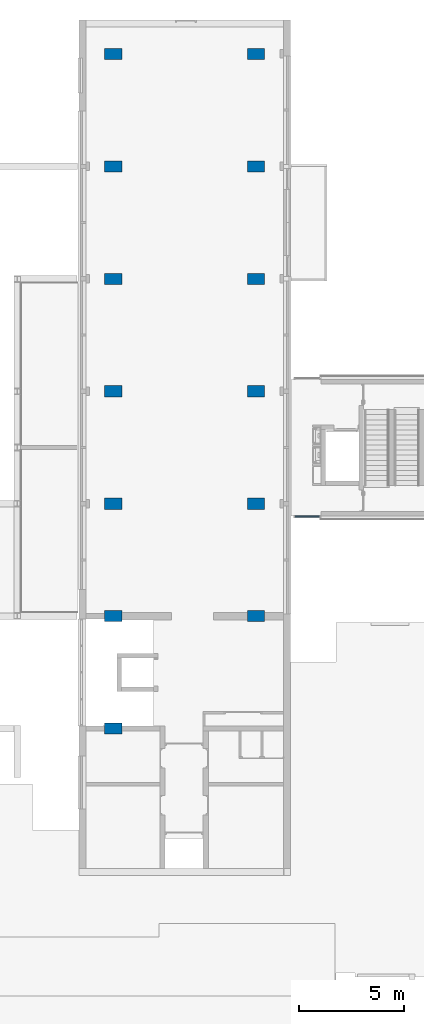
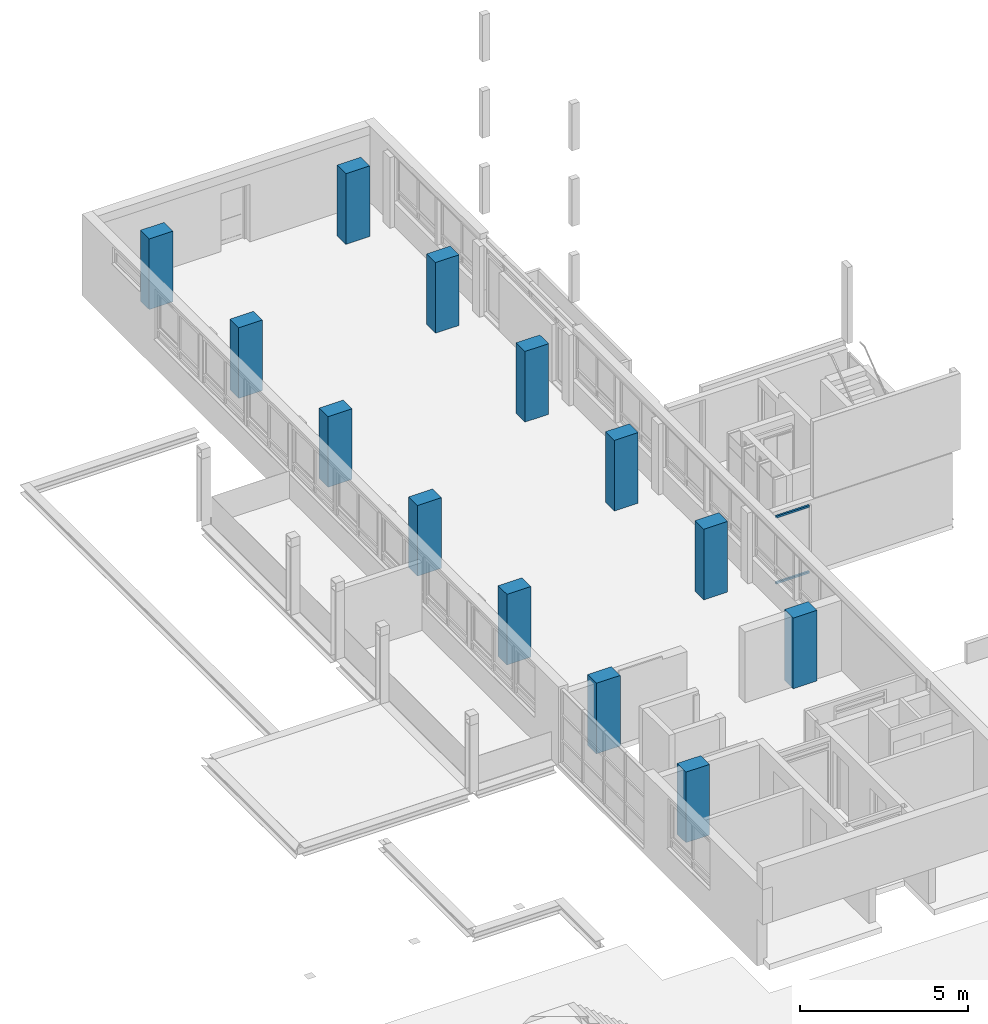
# One storey, part 1 of 22: 13 columns, 2 members, 1 element without a shape of its own.
"""IFC2X3 building model written with IfcOpenShell, lengths in millimetres."""

from ifc_helpers import new_model, entity, si_unit, converted_unit, derived_unit, money_unit, direction, frame, origin_with_axes, place, context, subcontext, project, spatial, faceted_brep, source, transform, mapped, material, type_object, type_shapes, element, aggregate, save


model = new_model("IFC2X3")

# Units and contexts
model_context = context("Model", 3, precision=0.01, world=origin_with_axes(), true_north=direction((0.0, 1.0)))
body_context = subcontext(model_context, "Body", "Model", "MODEL_VIEW")
ifc_project = project(units=[si_unit("LENGTHUNIT", "METRE", prefix="MILLI"), si_unit("AREAUNIT", "SQUARE_METRE"), si_unit("VOLUMEUNIT", "CUBIC_METRE"), converted_unit("PLANEANGLEUNIT", "DEGREE", entity("IfcPlaneAngleMeasure", 0.0174532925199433), si_unit("PLANEANGLEUNIT", "RADIAN"), dimensions=[0, 0, 0, 0, 0, 0, 0]), money_unit("EUR"), converted_unit("TIMEUNIT", "Year", entity("IfcTimeMeasure", 31557600.0), si_unit("TIMEUNIT", "SECOND"), dimensions=[0, 0, 1, 0, 0, 0, 0]), si_unit("MASSUNIT", "GRAM", prefix="KILO"), si_unit("THERMODYNAMICTEMPERATUREUNIT", "DEGREE_CELSIUS"), si_unit("LUMINOUSINTENSITYUNIT", "LUMEN"), si_unit("ENERGYUNIT", "JOULE", prefix="MEGA"), derived_unit("THERMALCONDUCTANCEUNIT", [(si_unit("POWERUNIT", "WATT"), 1), (si_unit("LENGTHUNIT", "METRE"), -1), (si_unit("THERMODYNAMICTEMPERATUREUNIT", "KELVIN"), -1)]), derived_unit("SPECIFICHEATCAPACITYUNIT", [(si_unit("ENERGYUNIT", "JOULE"), 1), (si_unit("MASSUNIT", "GRAM", prefix="KILO"), -1), (si_unit("THERMODYNAMICTEMPERATUREUNIT", "KELVIN"), -1)]), derived_unit("MASSDENSITYUNIT", [(si_unit("MASSUNIT", "GRAM", prefix="KILO"), 1), (si_unit("VOLUMEUNIT", "CUBIC_METRE"), -1)])], contexts=[model_context])

# Site, building, storey
site_placement = place(None, origin_with_axes())
site = spatial("IfcSite", under=ifc_project, at=site_placement, Name="Site", CompositionType="ELEMENT")
building_placement = place(site_placement, origin_with_axes())
building = spatial("IfcBuilding", under=site, at=building_placement, Name="Naam gebouw", CompositionType="ELEMENT")
storey_placement = place(building_placement, frame((0.0, 0.0, 8690.0), z_axis=(0.0, 0.0, 1.0), x_axis=(1.0, 0.0, 0.0)))
storey = spatial("IfcBuildingStorey", under=building, at=storey_placement, Name="2e verdieping V", CompositionType="ELEMENT", Elevation=8690.0)

# Columns
ifc_material_1 = material(Name="ALG - CONSTRUCTIEF")
column_type = type_object("IfcColumnType", Name="ALG - CONSTRUCTIEF 525 x 820", PredefinedType="COLUMN")
column_1_placement = place(storey_placement, frame((28605.99999999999, 33285.91242510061, 0.0), z_axis=(0.0, 0.0, 1.0), x_axis=(0.0, -1.0, 0.0)))
element("IfcColumn", 1, at=column_1_placement, inside=storey, type_object=column_type, material=ifc_material_1, Name="_Kolom-x", ObjectType="COLUMN", context=body_context, shape_type="Brep", body=[
    faceted_brep([(-262.5000000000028, -410.0000000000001, 0.0), (-262.5000000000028, -410.0000000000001, 2570.000000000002), (-262.5000000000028, 410.0000000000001, 2570.000000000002), (-262.5000000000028, 410.0000000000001, 0.0), (262.5000000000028, -409.9999999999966, 0.0), (262.5000000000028, -409.9999999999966, 2570.000000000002), (262.5000000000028, 410.0000000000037, 2570.000000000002), (262.5000000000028, 410.0000000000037, 0.0)], [[[0, 1, 2, 3]], [[4, 5, 1, 0]], [[5, 6, 2, 1]], [[3, 2, 6, 7]], [[7, 4, 0, 3]], [[7, 6, 5, 4]]]),
])
for number, where, z_axis, x_axis, name in (
    (2, (28605.99999999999, 43945.9124251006, 0.0), (0.0, 0.0, 1.0), (0.0, -1.0, 0.0), "_Kolom-x"),
    (3, (28605.99999999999, 54605.9124251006, 0.0), (0.0, 0.0, 1.0), (0.0, -1.0, 0.0), "_Kolom-x"),
):
    element("IfcColumn", number, at=place(storey_placement, frame(where, z_axis=z_axis, x_axis=x_axis)), inside=storey, type_object=column_type, material=ifc_material_1, Name=name, ObjectType="COLUMN", context=body_context, shape_type="Brep", body=[
        faceted_brep([(-262.5000000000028, -410.0000000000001, 0.0), (-262.5000000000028, -410.0000000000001, 2570.000000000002), (-262.5000000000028, 410.0000000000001, 2570.000000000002), (-262.5000000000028, 410.0000000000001, 0.0), (262.5000000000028, -410.0000000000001, 0.0), (262.5000000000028, -410.0000000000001, 2570.000000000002), (262.5000000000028, 410.0000000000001, 2570.000000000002), (262.5000000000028, 410.0000000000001, 0.0)], [[[0, 1, 2, 3]], [[4, 5, 1, 0]], [[5, 6, 2, 1]], [[3, 2, 6, 7]], [[7, 4, 0, 3]], [[7, 6, 5, 4]]]),
    ])
for number, where, z_axis, x_axis, name in (
    (4, (21836.0, 49275.9124251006, 0.0), (0.0, 0.0, 1.0), (0.0, -1.0, 0.0), "_Kolom-x"),
    (5, (21836.0, 43945.9124251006, 0.0), (0.0, 0.0, 1.0), (0.0, -1.0, 0.0), "_Kolom-x"),
):
    element("IfcColumn", number, at=place(storey_placement, frame(where, z_axis=z_axis, x_axis=x_axis)), inside=storey, type_object=column_type, material=ifc_material_1, Name=name, ObjectType="COLUMN", context=body_context, shape_type="Brep", body=[
        faceted_brep([(-262.5000000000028, -410.0000000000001, 0.0), (-262.5000000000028, -410.0000000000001, 2570.000000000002), (-262.5000000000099, 410.0000000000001, 2570.000000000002), (-262.5000000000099, 410.0000000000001, 0.0), (262.5000000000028, -410.0000000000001, 0.0), (262.5000000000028, -410.0000000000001, 2570.000000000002), (262.4999999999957, 410.0000000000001, 2570.000000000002), (262.4999999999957, 410.0000000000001, 0.0)], [[[0, 1, 2, 3]], [[4, 5, 1, 0]], [[5, 6, 2, 1]], [[3, 2, 6, 7]], [[7, 4, 0, 3]], [[7, 6, 5, 4]]]),
    ])
column_2_placement = place(storey_placement, frame((28605.99999999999, 38615.91242510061, 0.0), z_axis=(0.0, 0.0, 1.0), x_axis=(0.0, -1.0, 0.0)))
element("IfcColumn", 6, at=column_2_placement, inside=storey, type_object=column_type, material=ifc_material_1, Name="_Kolom-x", ObjectType="COLUMN", context=body_context, shape_type="Brep", body=[
    faceted_brep([(-262.5000000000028, -410.0000000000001, 0.0), (-262.5000000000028, -410.0000000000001, 2570.000000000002), (-262.5000000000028, 410.0000000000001, 2570.000000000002), (-262.5000000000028, 410.0000000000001, 0.0), (262.5000000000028, -410.0000000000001, 0.0), (262.5000000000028, -410.0000000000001, 2570.000000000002), (262.5000000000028, 410.0000000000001, 2570.000000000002), (262.5000000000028, 410.0000000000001, 0.0)], [[[0, 1, 2, 3]], [[4, 5, 1, 0]], [[5, 6, 2, 1]], [[3, 2, 6, 7]], [[7, 4, 0, 3]], [[7, 6, 5, 4]]]),
])
column_3_placement = place(storey_placement, frame((21836.0, 33285.91242510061, 0.0), z_axis=(0.0, 0.0, 1.0), x_axis=(0.0, -1.0, 0.0)))
element("IfcColumn", 7, at=column_3_placement, inside=storey, type_object=column_type, material=ifc_material_1, Name="_Kolom-x", ObjectType="COLUMN", context=body_context, shape_type="Brep", body=[
    faceted_brep([(-262.5000000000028, -410.0000000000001, 0.0), (-262.5000000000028, -410.0000000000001, 2570.000000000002), (-262.5000000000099, 410.0000000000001, 2570.000000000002), (-262.5000000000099, 410.0000000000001, 0.0), (262.5000000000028, -409.9999999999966, 0.0), (262.5000000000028, -409.9999999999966, 2570.000000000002), (262.4999999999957, 410.0000000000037, 2570.000000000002), (262.4999999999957, 410.0000000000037, 0.0)], [[[0, 1, 2, 3]], [[4, 5, 1, 0]], [[5, 6, 2, 1]], [[3, 2, 6, 7]], [[7, 4, 0, 3]], [[7, 6, 5, 4]]]),
])
column_4_placement = place(storey_placement, frame((21836.0, 38615.91242510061, 0.0), z_axis=(0.0, 0.0, 1.0), x_axis=(0.0, -1.0, 0.0)))
element("IfcColumn", 8, at=column_4_placement, inside=storey, type_object=column_type, material=ifc_material_1, Name="_Kolom-x", ObjectType="COLUMN", context=body_context, shape_type="Brep", body=[
    faceted_brep([(-262.5000000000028, -410.0000000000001, 0.0), (-262.5000000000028, -410.0000000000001, 2570.000000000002), (-262.5000000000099, 410.0000000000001, 2570.000000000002), (-262.5000000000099, 410.0000000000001, 0.0), (262.5000000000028, -410.0000000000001, 0.0), (262.5000000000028, -410.0000000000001, 2570.000000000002), (262.4999999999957, 410.0000000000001, 2570.000000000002), (262.4999999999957, 410.0000000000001, 0.0)], [[[0, 1, 2, 3]], [[4, 5, 1, 0]], [[5, 6, 2, 1]], [[3, 2, 6, 7]], [[7, 4, 0, 3]], [[7, 6, 5, 4]]]),
])
column_5_placement = place(storey_placement, frame((28605.99999999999, 49275.9124251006, 0.0), z_axis=(0.0, 0.0, 1.0), x_axis=(0.0, -1.0, 0.0)))
element("IfcColumn", 9, at=column_5_placement, inside=storey, type_object=column_type, material=ifc_material_1, Name="_Kolom-x", ObjectType="COLUMN", context=body_context, shape_type="Brep", body=[
    faceted_brep([(-262.5000000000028, -410.0000000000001, 0.0), (-262.5000000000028, -410.0000000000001, 2570.000000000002), (-262.5000000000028, 410.0000000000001, 2570.000000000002), (-262.5000000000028, 410.0000000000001, 0.0), (262.5000000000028, -410.0000000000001, 0.0), (262.5000000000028, -410.0000000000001, 2570.000000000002), (262.5000000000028, 410.0000000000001, 2570.000000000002), (262.5000000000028, 410.0000000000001, 0.0)], [[[0, 1, 2, 3]], [[4, 5, 1, 0]], [[5, 6, 2, 1]], [[3, 2, 6, 7]], [[7, 4, 0, 3]], [[7, 6, 5, 4]]]),
])
column_6_placement = place(storey_placement, frame((21836.0, 54605.9124251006, 0.0), z_axis=(0.0, 0.0, 1.0), x_axis=(0.0, -1.0, 0.0)))
element("IfcColumn", 10, at=column_6_placement, inside=storey, type_object=column_type, material=ifc_material_1, Name="_Kolom-x", ObjectType="COLUMN", context=body_context, shape_type="Brep", body=[
    faceted_brep([(-262.5000000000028, -410.0000000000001, 0.0), (-262.5000000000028, -410.0000000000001, 2570.000000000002), (-262.5000000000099, 410.0000000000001, 2570.000000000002), (-262.5000000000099, 410.0000000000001, 0.0), (262.5000000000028, -410.0000000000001, 0.0), (262.5000000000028, -410.0000000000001, 2570.000000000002), (262.4999999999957, 410.0000000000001, 2570.000000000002), (262.4999999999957, 410.0000000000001, 0.0)], [[[0, 1, 2, 3]], [[4, 5, 1, 0]], [[5, 6, 2, 1]], [[3, 2, 6, 7]], [[7, 4, 0, 3]], [[7, 6, 5, 4]]]),
])
column_7_placement = place(storey_placement, frame((21836.0, 22625.91242510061, 0.0), z_axis=(0.0, 0.0, 1.0), x_axis=(0.0, -1.0, 0.0)))
element("IfcColumn", 11, at=column_7_placement, inside=storey, type_object=column_type, material=ifc_material_1, Name="_Kolom-x", ObjectType="COLUMN", context=body_context, shape_type="Brep", body=[
    faceted_brep([(-262.4999999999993, -410.0000000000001, 0.0), (-262.4999999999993, -410.0000000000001, 2570.000000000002), (-262.4999999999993, 410.0000000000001, 2570.000000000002), (-262.4999999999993, 410.0000000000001, 0.0), (262.4999999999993, -410.0000000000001, 2570.000000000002), (-125.0000000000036, -410.0000000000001, 2570.000000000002), (262.4999999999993, -410.0000000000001, 0.0), (262.4999999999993, 410.0000000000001, 2570.000000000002), (-125.0000000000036, 410.0000000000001, 2570.000000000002), (262.4999999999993, 410.0000000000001, 0.0)], [[[0, 1, 2, 3]], [[4, 5, 1, 0, 6]], [[7, 8, 2, 1, 5, 4]], [[2, 8, 7, 9, 3]], [[9, 6, 0, 3]], [[9, 7, 4, 6]]]),
])
column_8_placement = place(storey_placement, frame((28605.99999999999, 27955.91242510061, 0.0), z_axis=(0.0, 0.0, 1.0), x_axis=(0.0, -1.0, 0.0)))
element("IfcColumn", 12, at=column_8_placement, inside=storey, type_object=column_type, material=ifc_material_1, Name="_Kolom-x", ObjectType="COLUMN", context=body_context, shape_type="Brep", body=[
    faceted_brep([(-262.4999999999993, -410.0000000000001, 0.0), (-262.4999999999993, -410.0000000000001, 2570.000000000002), (-262.4999999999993, 410.0000000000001, 2570.000000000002), (-262.4999999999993, 410.0000000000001, 0.0), (262.4999999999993, -410.0000000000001, 0.0), (262.4999999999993, -410.0000000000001, 2570.000000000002), (262.4999999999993, 410.0000000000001, 2570.000000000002), (262.4999999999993, 410.0000000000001, 0.0)], [[[0, 1, 2, 3]], [[4, 5, 1, 0]], [[5, 6, 2, 1]], [[3, 2, 6, 7]], [[7, 4, 0, 3]], [[7, 6, 5, 4]]]),
])
column_9_placement = place(storey_placement, frame((21836.0, 27955.91242510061, 0.0), z_axis=(0.0, 0.0, 1.0), x_axis=(0.0, -1.0, 0.0)))
element("IfcColumn", 13, at=column_9_placement, inside=storey, type_object=column_type, material=ifc_material_1, Name="_Kolom-x", ObjectType="COLUMN", context=body_context, shape_type="Brep", body=[
    faceted_brep([(-262.4999999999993, -410.0000000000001, 0.0), (-262.4999999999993, -410.0000000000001, 2570.000000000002), (-262.4999999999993, 410.0000000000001, 2570.000000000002), (-262.4999999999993, 410.0000000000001, 0.0), (262.4999999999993, -410.0000000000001, 2570.000000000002), (124.9999998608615, -410.0000000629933, 2570.000000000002), (262.4999999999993, -410.0000000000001, 0.0), (262.4999999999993, 410.0000000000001, 2570.000000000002), (124.9999994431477, 410.0000000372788, 2570.000000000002), (262.4999999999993, 410.0000000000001, 0.0)], [[[0, 1, 2, 3]], [[4, 5, 1, 0, 6]], [[7, 8, 2, 1, 5, 4]], [[2, 8, 7, 9, 3]], [[9, 6, 0, 3]], [[9, 7, 4, 6]]]),
])

# Curtain wall, members
curtain_wall_type = type_object("IfcCurtainWallType", Name="Curtain Wall:21_CW_alu kozijn 070x065", PredefinedType="NOTDEFINED")
curtain_wall_placement = place(storey_placement, frame((0.0, 0.0, -8690.0), z_axis=(0.0, 0.0, 1.0), x_axis=(1.0, 0.0, 0.0)))
curtain_wall = element("IfcCurtainWall", 14, at=curtain_wall_placement, inside=storey, type_object=curtain_wall_type, Name="Curtain Wall:21_CW_alu kozijn 070x065", ObjectType="Curtain Wall:21_CW_alu kozijn 070x065")
ifc_material_2 = material(Name="RAL 7024 - Grafietgrijs")
member_type_1 = type_object("IfcMemberType", Name="Rectangular Mullion:31_alu_070x065 RAL 7024", PredefinedType="MULLION")
shared_shape_1 = source(origin_with_axes(), body_context, "Body", "Brep", [
    faceted_brep([(32.49999999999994, 1154.0, 0.0), (32.49999999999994, 1154.0, 70.0), (32.50000000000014, -2.993161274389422e-10, 70.0), (32.50000000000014, -2.993161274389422e-10, 0.0), (-32.50000000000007, 1154.0, 0.0), (-32.50000000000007, 1154.0, 70.0), (-32.49999999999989, -2.993161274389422e-10, 70.0), (-32.49999999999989, -2.993161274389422e-10, 0.0)], [[[0, 1, 2, 3]], [[0, 4, 5, 1]], [[1, 5, 6, 2]], [[3, 2, 6, 7]], [[4, 0, 3, 7]], [[5, 4, 7, 6]]]),
])
type_shapes(member_type_1, [shared_shape_1])
member_1_placement = place(curtain_wall_placement, frame((31615.01028263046, 32679.41242631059, 8690.0), z_axis=(0.0, 0.0, 1.0), x_axis=(0.0, 1.0, 0.0)))
member_1 = element("IfcMember", 15, at=member_1_placement, type_object=member_type_1, material=ifc_material_2, Name="Rectangular Mullion:31_alu_070x065 RAL 7024", ObjectType="MULLION", context=body_context, shape_type="MappedRepresentation", body=[
    mapped(shared_shape_1, transform((0.0, 0.0, 0.0))),
])
member_type_2 = type_object("IfcMemberType", Name="Rectangular Mullion:31_alu_070x065 RAL 7024", PredefinedType="MULLION")
shared_shape_2 = source(origin_with_axes(), body_context, "Body", "Brep", [
    faceted_brep([(32.50000000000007, -1154.0, 0.0), (32.50000000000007, -1154.0, -70.0), (32.49999999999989, 2.993161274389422e-10, -70.0), (32.49999999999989, 2.993161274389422e-10, 0.0), (-32.49999999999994, -1154.0, 0.0), (-32.49999999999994, -1154.0, -70.0), (-32.50000000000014, 2.993161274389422e-10, -70.0), (-32.50000000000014, 2.993161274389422e-10, 0.0)], [[[0, 1, 2, 3]], [[0, 4, 5, 1]], [[1, 5, 6, 2]], [[3, 2, 6, 7]], [[4, 0, 3, 7]], [[5, 4, 7, 6]]]),
])
type_shapes(member_type_2, [shared_shape_2])
member_2_placement = place(curtain_wall_placement, frame((30461.00000003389, 32679.41242631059, 11160.0), z_axis=(0.0, 0.0, 1.0), x_axis=(0.0, 1.0, 0.0)))
member_2 = element("IfcMember", 16, at=member_2_placement, type_object=member_type_2, material=ifc_material_2, Name="Rectangular Mullion:31_alu_070x065 RAL 7024", ObjectType="MULLION", context=body_context, shape_type="MappedRepresentation", body=[
    mapped(shared_shape_2, transform((0.0, 0.0, 0.0))),
])
aggregate(curtain_wall, [member_2, member_1])

save(model, "model.ifc")
